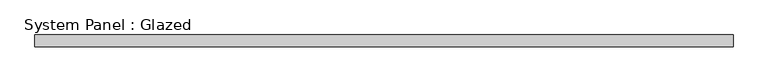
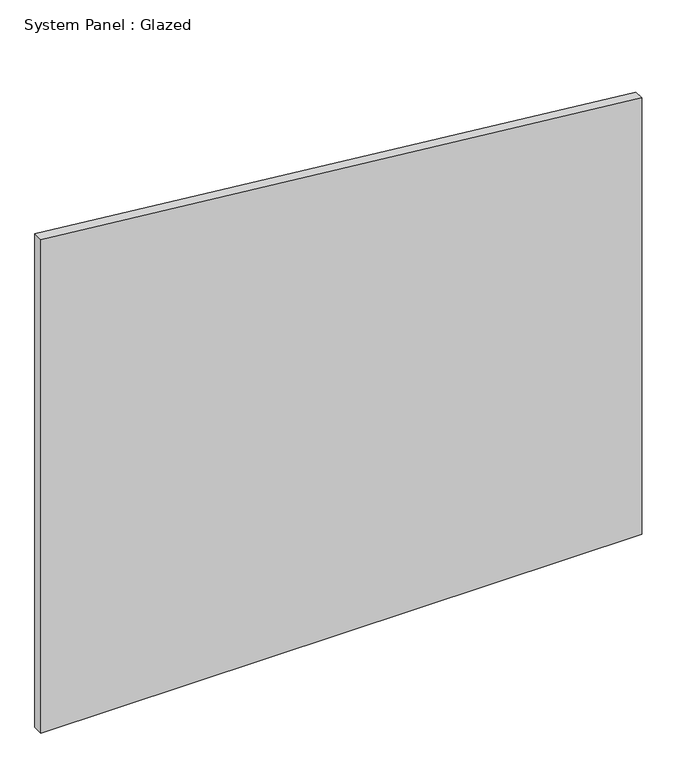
"""IFC4 building model written with IfcOpenShell, lengths in millimetres: plate geometry, System Panel : Glazed."""

from ifc_helpers import new_model, si_unit, frame, origin, place, context, project, spatial, polyline, outline, extrude, source, transform, mapped, element, save


def system_panel_glazed_db769ccb(model_context):
    return source(origin(), model_context, "Body", "SweptSolid", [
        extrude(outline(polyline([(0.0, -735.8695652), (0.0, 735.8695652), (1129.617448, 735.8695652), (1277.6004268, -735.8695652), (0.0, -735.8695652)])), frame((0.0, 24.5, 0.0), z_axis=(0.0, 1.0, 0.0), x_axis=(0.0, 0.0, 1.0)), (0.0, 0.0, 1.0), 25.0),
    ])


if __name__ == "__main__":
    model = new_model("IFC4")
    model_context = context("Model", 3, world=origin())
    ifc_project = project(units=[si_unit("LENGTHUNIT", "METRE", prefix="MILLI")], contexts=[model_context])
    site = spatial("IfcSite", under=ifc_project)
    building = spatial("IfcBuilding", under=site)
    placement = place(None, origin())
    system_panel_glazed_shape = system_panel_glazed_db769ccb(model_context)
    element("IfcPlate", 1, ObjectType="System Panel : Glazed", at=placement, inside=building, context=model_context, shape_type="MappedRepresentation", body=[
        mapped(system_panel_glazed_shape, transform((0.0, 0.0, 0.0), x_axis=(1.0, 0.0, 0.0), y_axis=(0.0, 1.0, 0.0), z_axis=(0.0, 0.0, 1.0))),
    ])
    save(model, "model.ifc")
